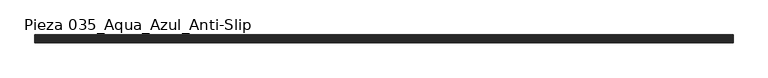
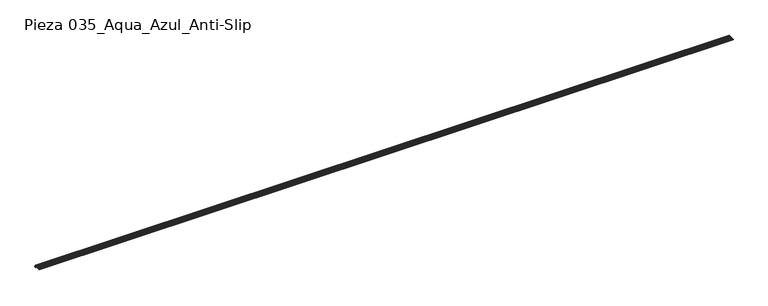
"""IFC4 building model written with IfcOpenShell, lengths in millimetres: slab geometry, ROSA GRES_035 : Pieza 035_Aqua_Azul_Anti-Slip."""

import ifcopenshell
import ifcopenshell.guid

model = None  # the IFC model being written
_history = None  # IfcOwnerHistory: only IFC2X3 demands one
_inside = {}  # id of a spatial element -> (the spatial element, [elements in it])
_under = {}  # id of a project, library or spatial element -> (it, [spatial elements below it])
_declared = {}  # id of a project -> (the project, [libraries it declares])
_typed = {}  # id of a type object -> (the type object, [elements of that type])
_made_of = {}  # id of a material, layer set ... -> (it, [elements and type objects made of it])


def new_model(schema):
    """Start an empty IFC model of exactly this schema.

    Asked for "IFC4X3", IfcOpenShell would pick the latest addendum, in which some entities
    have other attributes; the version numbers below select the first issue.
    IFC2X3 requires an IfcOwnerHistory on every rooted entity: one is made here for all.
    """
    global model, _history
    if schema == "IFC4X3":
        model = ifcopenshell.file(schema_version=(4, 3, 0, 0))
    else:
        model = ifcopenshell.file(schema=schema)
    _inside.clear()
    _under.clear()
    _declared.clear()
    _typed.clear()
    _made_of.clear()
    _history = None
    if model.schema == "IFC2X3":
        org = make("IfcOrganization", Name="unknown")
        user = make(
            "IfcPersonAndOrganization",
            ThePerson=make("IfcPerson", FamilyName="unknown"),
            TheOrganization=org,
        )
        app = make(
            "IfcApplication",
            ApplicationDeveloper=org,
            Version="unknown",
            ApplicationFullName="unknown",
            ApplicationIdentifier="unknown",
        )
        _history = make(
            "IfcOwnerHistory",
            OwningUser=user,
            OwningApplication=app,
            ChangeAction="ADDED",
            CreationDate=0,
        )
    return model


def make(cls, **values):
    """One entity of the class cls with the attributes given. An attribute that is None is left unset."""
    return model.create_entity(
        cls, **{name: value for name, value in values.items() if value is not None}
    )


def rooted(cls, **values):
    """An entity with a GlobalId (a new one), such as an element, a storey or a relation."""
    return make(cls, GlobalId=ifcopenshell.guid.new(), OwnerHistory=_history, **values)


def si_unit(unit_type, name, prefix=None):
    """IfcSIUnit, for example si_unit("LENGTHUNIT", "METRE", prefix="MILLI")."""
    return make("IfcSIUnit", UnitType=unit_type, Prefix=prefix, Name=name)


def assignment(units):
    """IfcUnitAssignment: the units of a project."""
    return None if units is None else make("IfcUnitAssignment", Units=units)


def point(xyz):
    """IfcCartesianPoint."""
    return None if xyz is None else make("IfcCartesianPoint", Coordinates=xyz)


def direction(xyz):
    """IfcDirection."""
    return None if xyz is None else make("IfcDirection", DirectionRatios=xyz)


def frame(location, z_axis=None, x_axis=None):
    """IfcAxis2Placement3D, a coordinate frame: its origin and axes. An axis left out is left unset."""
    return make(
        "IfcAxis2Placement3D",
        Location=point(location),
        Axis=direction(z_axis),
        RefDirection=direction(x_axis),
    )


def frame_2d(location, x_axis=None):
    """IfcAxis2Placement2D, a coordinate frame in the plane: its origin and x axis."""
    return make(
        "IfcAxis2Placement2D", Location=point(location), RefDirection=direction(x_axis)
    )


def origin():
    """The frame at (0, 0, 0) with its axes left unset."""
    return frame((0.0, 0.0, 0.0))


def place(relative_to, where):
    """IfcLocalPlacement: puts the frame where relative to a parent placement (None: the world)."""
    return make(
        "IfcLocalPlacement", PlacementRelTo=relative_to, RelativePlacement=where
    )


def context(
    kind, dimensions, precision=None, world=None, true_north=None, identifier=None
):
    """IfcGeometricRepresentationContext, for example the 3D "Model" context."""
    return make(
        "IfcGeometricRepresentationContext",
        ContextIdentifier=identifier,
        ContextType=kind,
        CoordinateSpaceDimension=dimensions,
        Precision=precision,
        WorldCoordinateSystem=world,
        TrueNorth=true_north,
    )


def project(units=None, contexts=None):
    """IfcProject with its units and contexts."""
    return rooted(
        "IfcProject",
        Name="project",
        RepresentationContexts=contexts,
        UnitsInContext=assignment(units),
    )


def spatial(cls, under=None, at=None, **own):
    """A site, building, storey or space (cls), placed at a placement, below another one or the project."""
    s = rooted(cls, ObjectPlacement=at, **own)
    if under is not None:
        _under.setdefault(under.id(), (under, []))[1].append(s)
    return s


def polyline(points):
    """IfcPolyline through the points."""
    return make("IfcPolyline", Points=[point(p) for p in points])


def circle_curve(where, radius):
    """IfcCircle in the frame where."""
    return make("IfcCircle", Position=where, Radius=radius)


def trimmed(basis, trim1, trim2, sense, master):
    """IfcTrimmedCurve: the piece of a basis curve between two trims."""
    return make(
        "IfcTrimmedCurve",
        BasisCurve=basis,
        Trim1=trim1,
        Trim2=trim2,
        SenseAgreement=sense,
        MasterRepresentation=master,
    )


def segment(curve, same_sense, transition):
    """IfcCompositeCurveSegment."""
    return make(
        "IfcCompositeCurveSegment",
        Transition=transition,
        SameSense=same_sense,
        ParentCurve=curve,
    )


def composite_curve(segments, self_intersect=None):
    """IfcCompositeCurve: segments joined end to end."""
    return make("IfcCompositeCurve", Segments=segments, SelfIntersect=self_intersect)


def outline(outer, holes=None, kind="AREA"):
    """IfcArbitraryClosedProfileDef: a profile drawn as a closed curve; with holes, ...WithVoids."""
    if holes is None:
        return make("IfcArbitraryClosedProfileDef", ProfileType=kind, OuterCurve=outer)
    return make(
        "IfcArbitraryProfileDefWithVoids",
        ProfileType=kind,
        OuterCurve=outer,
        InnerCurves=holes,
    )


def extrude(swept, where, along, depth):
    """IfcExtrudedAreaSolid: the profile swept, set in the frame where, extruded along a direction by depth."""
    return make(
        "IfcExtrudedAreaSolid",
        SweptArea=swept,
        Position=where,
        ExtrudedDirection=direction(along),
        Depth=depth,
    )


def shape(context_of_items, identifier, shape_type, items):
    """IfcShapeRepresentation: the items that make up one representation, for example the "Body"."""
    return make(
        "IfcShapeRepresentation",
        ContextOfItems=context_of_items,
        RepresentationIdentifier=identifier,
        RepresentationType=shape_type,
        Items=items,
    )


def source(mapping_origin, context_of_items, identifier, shape_type, items):
    """IfcRepresentationMap: a shape defined once, which mapped items show again and again."""
    return make(
        "IfcRepresentationMap",
        MappingOrigin=mapping_origin,
        MappedRepresentation=shape(context_of_items, identifier, shape_type, items),
    )


def transform(
    local_origin,
    x_axis=None,
    y_axis=None,
    z_axis=None,
    scale=None,
    scale2=None,
    scale3=None,
    uniform=True,
):
    """IfcCartesianTransformationOperator3D, or its non-uniform kind. x_axis, y_axis, z_axis: its Axis1, 2, 3."""
    if uniform:
        return make(
            "IfcCartesianTransformationOperator3D",
            Axis1=direction(x_axis),
            Axis2=direction(y_axis),
            LocalOrigin=point(local_origin),
            Scale=scale,
            Axis3=direction(z_axis),
        )
    return make(
        "IfcCartesianTransformationOperator3DnonUniform",
        Axis1=direction(x_axis),
        Axis2=direction(y_axis),
        LocalOrigin=point(local_origin),
        Scale=scale,
        Axis3=direction(z_axis),
        Scale2=scale2,
        Scale3=scale3,
    )


def mapped(mapping_source, mapping_target):
    """IfcMappedItem: shows the shape of a source again, moved by a transform."""
    return make(
        "IfcMappedItem", MappingSource=mapping_source, MappingTarget=mapping_target
    )


def made_of(thing, what):
    """Note that an element or type object is made of a material, layer set ...; save() writes the relation."""
    if what is not None:
        _made_of.setdefault(what.id(), (what, []))[1].append(thing)
    return thing


def element(
    cls,
    number,
    at=None,
    inside=None,
    cuts=None,
    type_object=None,
    material=None,
    context=None,
    identifier="Body",
    shape_type=None,
    held_by="IfcProductDefinitionShape",
    body=None,
    shapes=None,
    **own,
):
    """One element of the class cls, such as IfcWall. Its Tag is "e" and its number.

    at: its placement. inside: the storey or other place that contains it. cuts: it is an
    opening in that element (IfcRelVoidsElement). A single representation is given by context,
    identifier, shape_type and body (its items); several are given by shapes. held_by: the class
    of the entity that holds the representations. save() writes the other relations.
    """
    e = rooted(cls, Tag="e%d" % number, ObjectPlacement=at, **own)
    if body is not None:
        shapes = [shape(context, identifier, shape_type, body)]
    if shapes is not None:
        e.Representation = make(held_by, Representations=shapes)
    if inside is not None:
        _inside.setdefault(inside.id(), (inside, []))[1].append(e)
    if cuts is not None:
        rooted(
            "IfcRelVoidsElement", RelatingBuildingElement=cuts, RelatedOpeningElement=e
        )
    if type_object is not None:
        _typed.setdefault(type_object.id(), (type_object, []))[1].append(e)
    return made_of(e, material)


def aggregate(whole, parts):
    """IfcRelAggregates: a whole, such as a stair, and the parts it consists of."""
    return rooted("IfcRelAggregates", RelatingObject=whole, RelatedObjects=parts)


def save(model, path):
    """Write the relations noted so far, then the file.

    IfcRelAggregates (storeys below a building ...), IfcRelContainedInSpatialStructure (elements
    in a storey), IfcRelDefinesByType, IfcRelAssociatesMaterial and IfcRelDeclares: one each for
    every whole, place, type object, material and project.
    """
    for whole, parts in _under.values():
        aggregate(whole, parts)
    for where, things in _inside.values():
        rooted(
            "IfcRelContainedInSpatialStructure",
            RelatedElements=things,
            RelatingStructure=where,
        )
    for kind, things in _typed.values():
        rooted("IfcRelDefinesByType", RelatedObjects=things, RelatingType=kind)
    for what, things in _made_of.values():
        rooted("IfcRelAssociatesMaterial", RelatedObjects=things, RelatingMaterial=what)
    for by, libraries in _declared.values():
        rooted("IfcRelDeclares", RelatingContext=by, RelatedDefinitions=libraries)
    model.write(path)


def pieza_035_aqua_azul_anti_slip_d555d483(model_context):
    return source(origin(), model_context, "Body", "SweptSolid", [
        extrude(outline(composite_curve([segment(polyline([(-511.1821026, 191.3274907), (-511.1821026, 215.3274907), (-618.1821026, 215.3274907), (-618.1821026, 227.2926815), (-613.6860009, 227.2926815)]), True, "CONTINUOUS"), segment(trimmed(circle_curve(frame_2d((-609.8807503, 231.7505669)), 5.8611155), [point((-613.6860009, 227.2926815))], [point((-605.7277929, 227.6146729))], True, "CARTESIAN"), True, "CONTINUOUS"), segment(trimmed(circle_curve(frame_2d((-601.5775039, 231.7532445)), 5.8611155), [point((-605.7277929, 227.6146729))], [point((-597.4245465, 227.6173505))], True, "CARTESIAN"), True, "CONTINUOUS"), segment(trimmed(circle_curve(frame_2d((-593.2742574, 231.7559221)), 5.8611155), [point((-597.4245465, 227.6173505))], [point((-589.1213, 227.6200281))], True, "CARTESIAN"), True, "CONTINUOUS"), segment(trimmed(circle_curve(frame_2d((-584.9710109, 231.7585998)), 5.8611155), [point((-589.1213, 227.6200281))], [point((-580.8180535, 227.6227058))], True, "CARTESIAN"), True, "CONTINUOUS"), segment(trimmed(circle_curve(frame_2d((-576.6677645, 231.7612774)), 5.8611155), [point((-580.8180535, 227.6227058))], [point((-572.5148071, 227.6253834))], True, "CARTESIAN"), True, "CONTINUOUS"), segment(trimmed(circle_curve(frame_2d((-568.364518, 231.763955)), 5.8611155), [point((-572.5148071, 227.6253834))], [point((-564.2115606, 227.628061))], True, "CARTESIAN"), True, "CONTINUOUS"), segment(trimmed(circle_curve(frame_2d((-560.0612716, 231.7666327)), 5.8611155), [point((-564.2115606, 227.628061))], [point((-555.9083142, 227.6307387))], True, "CARTESIAN"), True, "CONTINUOUS"), segment(trimmed(circle_curve(frame_2d((-551.7580251, 231.7693103)), 5.8611155), [point((-555.9083142, 227.6307387))], [point((-547.6050677, 227.6334163))], True, "CARTESIAN"), True, "CONTINUOUS"), segment(trimmed(circle_curve(frame_2d((-543.4547786, 231.7719879)), 5.8611155), [point((-547.6050677, 227.6334163))], [point((-539.3018212, 227.6360939))], True, "CARTESIAN"), True, "CONTINUOUS"), segment(trimmed(circle_curve(frame_2d((-535.1515322, 231.7746656)), 5.8611155), [point((-539.3018212, 227.6360939))], [point((-530.9985748, 227.6387716))], True, "CARTESIAN"), True, "CONTINUOUS"), segment(trimmed(circle_curve(frame_2d((-526.8482857, 231.7773432)), 5.8611155), [point((-530.9985748, 227.6387716))], [point((-522.6953283, 227.6414492))], True, "CARTESIAN"), True, "CONTINUOUS"), segment(trimmed(circle_curve(frame_2d((-518.5450393, 231.7800208)), 5.8611155), [point((-522.6953283, 227.6414492))], [point((-514.3920818, 227.6441268))], True, "CARTESIAN"), True, "CONTINUOUS"), segment(trimmed(circle_curve(frame_2d((-510.2417928, 231.7826985)), 5.8611155), [point((-514.3920818, 227.6441268))], [point((-506.4334076, 227.3274907))], True, "CARTESIAN"), True, "CONTINUOUS"), segment(polyline([(-506.4334076, 227.3274907), (-499.1821026, 227.3274907), (-499.1821026, 202.3274907), (-484.1821026, 202.3274907), (-484.1821026, 191.3274907), (-511.1821026, 191.3274907)]), True, "CONTINUOUS")], self_intersect=False)), frame((0.0, 0.0, 0.0), z_axis=(1.0, 0.0, 0.0), x_axis=(0.0, 1.0, 0.0)), (0.0, 0.0, 1.0), 12125.0),
    ])


if __name__ == "__main__":
    model = new_model("IFC4")
    model_context = context("Model", 3, world=origin())
    ifc_project = project(units=[si_unit("LENGTHUNIT", "METRE", prefix="MILLI")], contexts=[model_context])
    site = spatial("IfcSite", under=ifc_project)
    building = spatial("IfcBuilding", under=site)
    placement = place(None, origin())
    pieza_035_aqua_azul_anti_slip_shape = pieza_035_aqua_azul_anti_slip_d555d483(model_context)
    element("IfcSlab", 1, ObjectType="ROSA GRES_035 : Pieza 035_Aqua_Azul_Anti-Slip", at=placement, inside=building, context=model_context, shape_type="MappedRepresentation", body=[
        mapped(pieza_035_aqua_azul_anti_slip_shape, transform((0.0, 0.0, 0.0), x_axis=(1.0, 0.0, 0.0), y_axis=(0.0, 1.0, 0.0), z_axis=(0.0, 0.0, 1.0))),
    ])
    save(model, "model.ifc")
